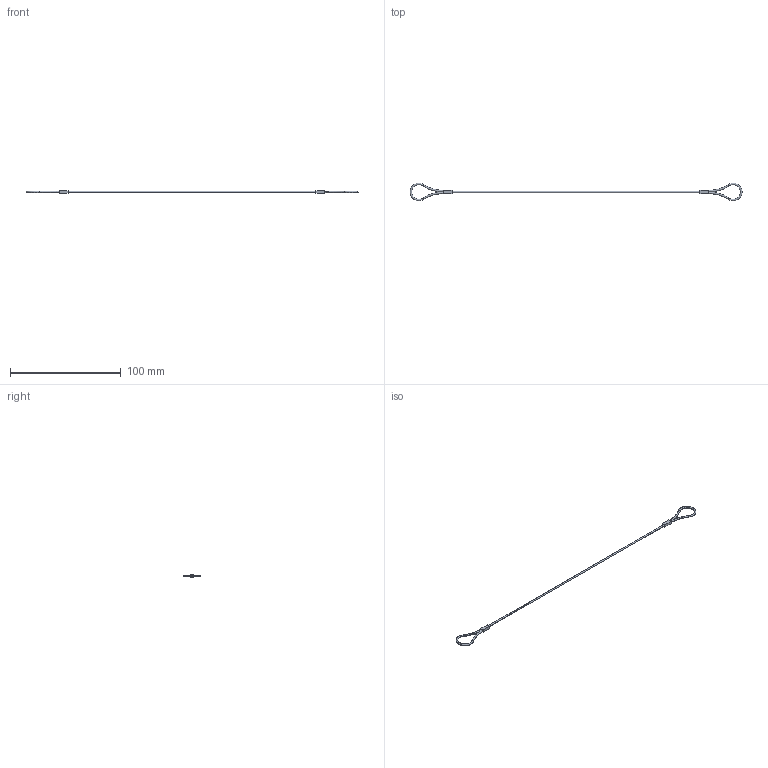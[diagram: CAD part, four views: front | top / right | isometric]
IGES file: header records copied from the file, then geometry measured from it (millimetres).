
Start section:  PTC IGES file: EB-935_17.igs
Global section: file name: EB-935_17.igs; native system: Creo Parametric by Parametric Technology Corporation; preprocessor: 2012360; author: xeon_1; organization: Unknown; date: 20130808.094315; units: millimetre
Bounding box: 299.94 x 15.97 x 2.5 mm (x, y, z)
Volume: 760.7 mm3; surface area: 1904.1 mm2
Topology: 1 solids, 1 shells, 28 faces, 62 edges, 34 vertices
Faces by surface type: revolution 14, bspline 14
